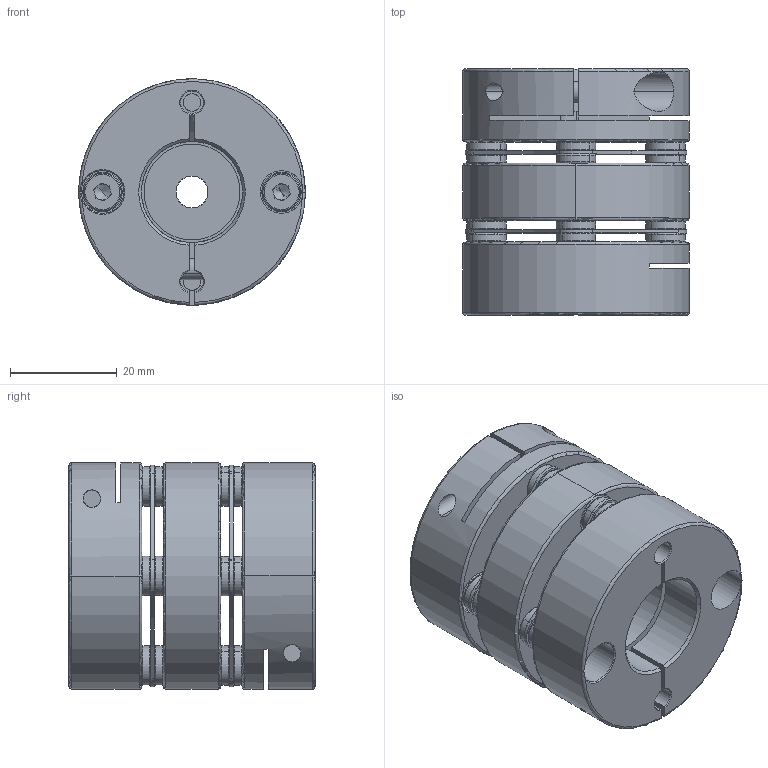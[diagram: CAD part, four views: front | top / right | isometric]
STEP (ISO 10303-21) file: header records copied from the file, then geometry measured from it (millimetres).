
FILE_DESCRIPTION (( 'STEP AP203' ), '1' );
FILE_NAME ('SDWC-42C-6X19_203.STEP', '2013-01-17T05:17:06', ( 'MYCOM' ), ( '' ), 'SwSTEP 2.0', 'SolidWorks 2012', '' );
FILE_SCHEMA (( 'CONFIG_CONTROL_DESIGN' ));
Length unit declared in the file: millimetre
Products named in the file (1): SDWC-42C-6X19_203
Bounding box: 42.5 x 46.2 x 42.5 mm (x, y, z)
Volume: 43031.6 mm3; surface area: 24057.8 mm2
Topology: 1 solids, 35 shells, 748 faces, 1751 edges, 1049 vertices
Faces by surface type: cylinder 243, plane 222, cone 141, torus 138, bspline 4
Entity records: 22055 total; most frequent: CARTESIAN_POINT 4242, DIRECTION 4108, ORIENTED_EDGE 3462, EDGE_CURVE 1731, AXIS2_PLACEMENT_3D 1713, VERTEX_POINT 1049, CIRCLE 968, EDGE_LOOP 846
